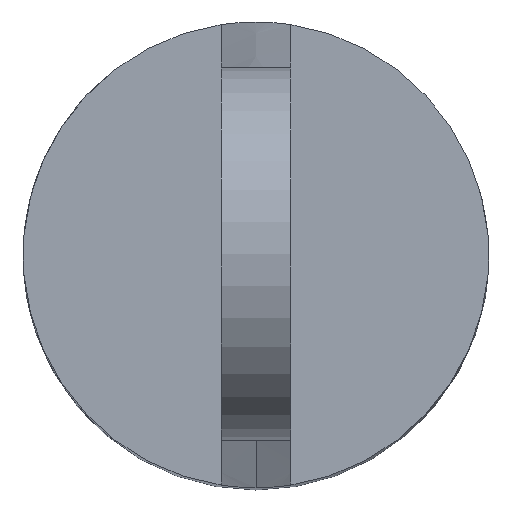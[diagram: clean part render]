
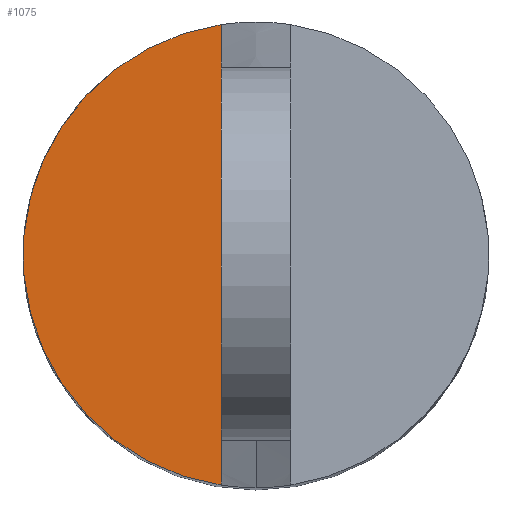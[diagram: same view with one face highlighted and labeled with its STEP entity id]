
A CAD part, top view. The second image highlights one B-rep face of the part: STEP entity #1075.
In plain terms, the highlighted planar face has unit normal (0, 0, 1).
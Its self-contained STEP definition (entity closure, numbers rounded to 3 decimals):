
#31 = CYLINDRICAL_SURFACE('',#32,10.);
#32 = AXIS2_PLACEMENT_3D('',#33,#34,#35);
#33 = CARTESIAN_POINT('',(21.,-51.,-164.));
#34 = DIRECTION('',(0.,0.,1.));
#35 = DIRECTION('',(0.,1.,0.));
#166 = VERTEX_POINT('',#167);
#167 = CARTESIAN_POINT('',(19.5,-60.887,-14.));
#194 = EDGE_CURVE('',#195,#166,#197,.T.);
#195 = VERTEX_POINT('',#196);
#196 = CARTESIAN_POINT('',(19.5,-41.113,-14.));
#197 = SURFACE_CURVE('',#198,(#203,#210),.PCURVE_S1.);
#198 = CIRCLE('',#199,10.);
#199 = AXIS2_PLACEMENT_3D('',#200,#201,#202);
#200 = CARTESIAN_POINT('',(21.,-51.,-14.));
#201 = DIRECTION('',(0.,-0.,1.));
#202 = DIRECTION('',(0.,1.,0.));
#203 = PCURVE('',#31,#204);
#204 = DEFINITIONAL_REPRESENTATION('',(#205),#209);
#205 = LINE('',#206,#207);
#206 = CARTESIAN_POINT('',(0.,150.));
#207 = VECTOR('',#208,1.);
#208 = DIRECTION('',(1.,0.));
#209 = ( GEOMETRIC_REPRESENTATION_CONTEXT(2) 
PARAMETRIC_REPRESENTATION_CONTEXT() REPRESENTATION_CONTEXT('2D SPACE',''
  ) );
#210 = PCURVE('',#211,#216);
#211 = PLANE('',#212);
#212 = AXIS2_PLACEMENT_3D('',#213,#214,#215);
#213 = CARTESIAN_POINT('',(9.5,-40.,-14.));
#214 = DIRECTION('',(0.,0.,1.));
#215 = DIRECTION('',(0.,-1.,0.));
#216 = DEFINITIONAL_REPRESENTATION('',(#217),#221);
#217 = CIRCLE('',#218,10.);
#218 = AXIS2_PLACEMENT_2D('',#219,#220);
#219 = CARTESIAN_POINT('',(11.,11.5));
#220 = DIRECTION('',(-1.,0.));
#221 = ( GEOMETRIC_REPRESENTATION_CONTEXT(2) 
PARAMETRIC_REPRESENTATION_CONTEXT() REPRESENTATION_CONTEXT('2D SPACE',''
  ) );
#890 = PLANE('',#891);
#891 = AXIS2_PLACEMENT_3D('',#892,#893,#894);
#892 = CARTESIAN_POINT('',(19.5,-40.,-14.));
#893 = DIRECTION('',(1.,0.,0.));
#894 = DIRECTION('',(0.,-1.,0.));
#1075 = ADVANCED_FACE('',(#1076),#211,.T.);
#1076 = FACE_BOUND('',#1077,.T.);
#1077 = EDGE_LOOP('',(#1078,#1099));
#1078 = ORIENTED_EDGE('',*,*,#1079,.F.);
#1079 = EDGE_CURVE('',#195,#166,#1080,.T.);
#1080 = SURFACE_CURVE('',#1081,(#1085,#1092),.PCURVE_S1.);
#1081 = LINE('',#1082,#1083);
#1082 = CARTESIAN_POINT('',(19.5,-40.,-14.));
#1083 = VECTOR('',#1084,1.);
#1084 = DIRECTION('',(0.,-1.,0.));
#1085 = PCURVE('',#211,#1086);
#1086 = DEFINITIONAL_REPRESENTATION('',(#1087),#1091);
#1087 = LINE('',#1088,#1089);
#1088 = CARTESIAN_POINT('',(0.,10.));
#1089 = VECTOR('',#1090,1.);
#1090 = DIRECTION('',(1.,0.));
#1091 = ( GEOMETRIC_REPRESENTATION_CONTEXT(2) 
PARAMETRIC_REPRESENTATION_CONTEXT() REPRESENTATION_CONTEXT('2D SPACE',''
  ) );
#1092 = PCURVE('',#890,#1093);
#1093 = DEFINITIONAL_REPRESENTATION('',(#1094),#1098);
#1094 = LINE('',#1095,#1096);
#1095 = CARTESIAN_POINT('',(0.,0.));
#1096 = VECTOR('',#1097,1.);
#1097 = DIRECTION('',(1.,0.));
#1098 = ( GEOMETRIC_REPRESENTATION_CONTEXT(2) 
PARAMETRIC_REPRESENTATION_CONTEXT() REPRESENTATION_CONTEXT('2D SPACE',''
  ) );
#1099 = ORIENTED_EDGE('',*,*,#194,.T.);
